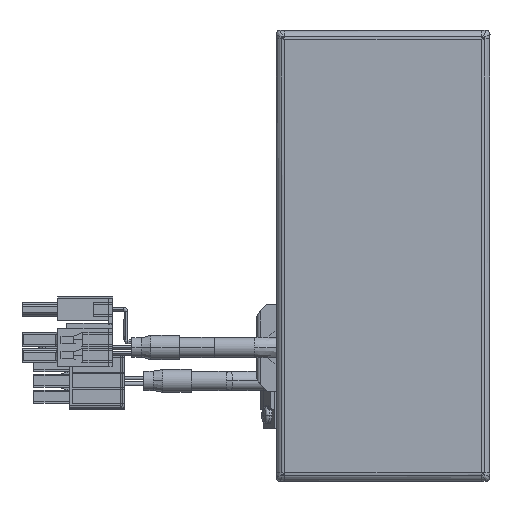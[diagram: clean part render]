
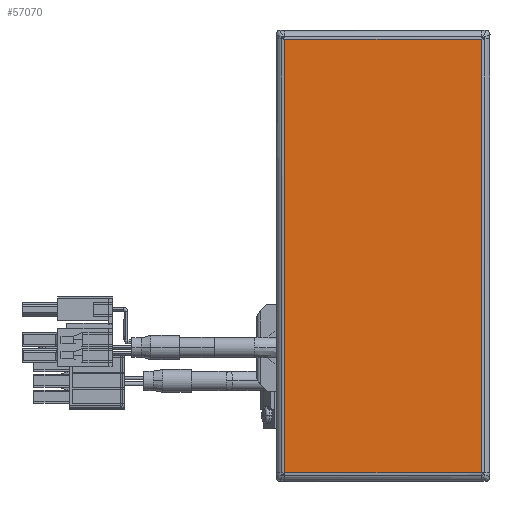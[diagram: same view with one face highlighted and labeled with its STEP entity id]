
A CAD part, top view. The second image highlights one B-rep face of the part: STEP entity #57070.
In plain terms, the highlighted planar face has unit normal (0, 0, 1) as drawn and (0, 0, -1) by its records, which use the part's own axes.
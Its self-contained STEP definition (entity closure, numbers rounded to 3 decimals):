
#414 = EDGE_CURVE ( 'NONE', #44853, #47469, #29824, .T. ) ;
#703 = CARTESIAN_POINT ( 'NONE',  ( -56.763, -25.793, -1.5 ) ) ;
#834 = DIRECTION ( 'NONE',  ( 0., 0., -1. ) ) ;
#5165 = DIRECTION ( 'NONE',  ( 0., 1., 0. ) ) ;
#5364 = LINE ( 'NONE', #55281, #16206 ) ;
#5639 = AXIS2_PLACEMENT_3D ( 'NONE', #32948, #834, #33172 ) ;
#6714 = VECTOR ( 'NONE', #58230, 1000. ) ;
#7122 = CARTESIAN_POINT ( 'NONE',  ( 56.763, 25.763, -1.5 ) ) ;
#9589 = LINE ( 'NONE', #13675, #20363 ) ;
#13675 = CARTESIAN_POINT ( 'NONE',  ( 56.763, 25.793, -1.5 ) ) ;
#15018 = CARTESIAN_POINT ( 'NONE',  ( -56.763, -25.763, -1.5 ) ) ;
#15704 = LINE ( 'NONE', #703, #51117 ) ;
#16206 = VECTOR ( 'NONE', #18504, 1000. ) ;
#18504 = DIRECTION ( 'NONE',  ( 1., 0., 0. ) ) ;
#20363 = VECTOR ( 'NONE', #41354, 1000. ) ;
#23310 = EDGE_CURVE ( 'NONE', #47469, #30304, #15704, .T. ) ;
#23625 = ORIENTED_EDGE ( 'NONE', *, *, #50907, .T. ) ;
#23863 = PLANE ( 'NONE',  #5639 ) ;
#25915 = CARTESIAN_POINT ( 'NONE',  ( 56.793, -25.763, -1.5 ) ) ;
#28916 = EDGE_CURVE ( 'NONE', #39169, #44853, #9589, .T. ) ;
#29334 = ORIENTED_EDGE ( 'NONE', *, *, #28916, .T. ) ;
#29824 = LINE ( 'NONE', #25915, #6714 ) ;
#30304 = VERTEX_POINT ( 'NONE', #56883 ) ;
#32948 = CARTESIAN_POINT ( 'NONE',  ( 0., 0., -1.5 ) ) ;
#33172 = DIRECTION ( 'NONE',  ( -1., 0., 0. ) ) ;
#39169 = VERTEX_POINT ( 'NONE', #7122 ) ;
#41354 = DIRECTION ( 'NONE',  ( 0., -1., 0. ) ) ;
#44853 = VERTEX_POINT ( 'NONE', #49869 ) ;
#47469 = VERTEX_POINT ( 'NONE', #15018 ) ;
#48048 = ORIENTED_EDGE ( 'NONE', *, *, #23310, .T. ) ;
#49869 = CARTESIAN_POINT ( 'NONE',  ( 56.763, -25.763, -1.5 ) ) ;
#50907 = EDGE_CURVE ( 'NONE', #30304, #39169, #5364, .T. ) ;
#51117 = VECTOR ( 'NONE', #5165, 1000. ) ;
#52810 = ORIENTED_EDGE ( 'NONE', *, *, #414, .T. ) ;
#55281 = CARTESIAN_POINT ( 'NONE',  ( -56.793, 25.763, -1.5 ) ) ;
#56289 = EDGE_LOOP ( 'NONE', ( #29334, #52810, #48048, #23625 ) ) ;
#56883 = CARTESIAN_POINT ( 'NONE',  ( -56.763, 25.763, -1.5 ) ) ;
#57070 = ADVANCED_FACE ( 'NONE', ( #58193 ), #23863, .T. ) ;
#58193 = FACE_OUTER_BOUND ( 'NONE', #56289, .T. ) ;
#58230 = DIRECTION ( 'NONE',  ( -1., 0., 0. ) ) ;
